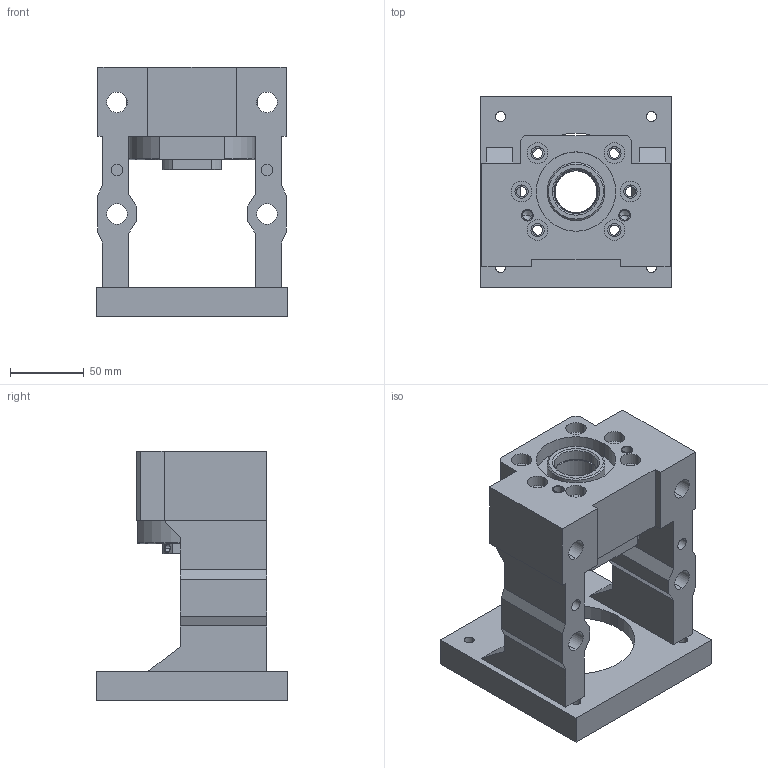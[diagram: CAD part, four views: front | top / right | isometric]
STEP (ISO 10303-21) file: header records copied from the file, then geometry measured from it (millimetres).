
FILE_DESCRIPTION((''),'2;1');
FILE_NAME('M130G-BK30-C____________ASM_ASM_ASM','2021-11-29T',('Administrator'),(''),'PRO/ENGINEER BY PARAMETRIC TECHNOLOGY CORPORATION, 2010280','PRO/ENGINEER BY PARAMETRIC TECHNOLOGY CORPORATION, 2010280','');
FILE_SCHEMA(('CONFIG_CONTROL_DESIGN'));
Length unit declared in the file: millimetre
Products named in the file (5): M130G-SBK25-C-01_____; PRT0007; PRT0009; BK30-03_2; M130G-BK30-C____________ASM_ASM_ASM
Assembly tree (5 placements, depth 2):
  M130G-BK30-C____________ASM_ASM_ASM
    M130G-SBK25-C-01_____
    PRT0007  x2
    PRT0009
    BK30-03_2
Bounding box: 130 x 130 x 170 mm (x, y, z)
Volume: 865073.9 mm3; surface area: 165392.7 mm2
Topology: 5 solids, 9 shells, 285 faces, 762 edges, 501 vertices
Faces by surface type: cylinder 136, plane 88, cone 34, bspline 23, torus 4
Entity records: 13386 total; most frequent: CARTESIAN_POINT 6520, ORIENTED_EDGE 1436, DIRECTION 1309, EDGE_CURVE 730, AXIS2_PLACEMENT_3D 496, VERTEX_POINT 485, EDGE_LOOP 345, VECTOR 317
